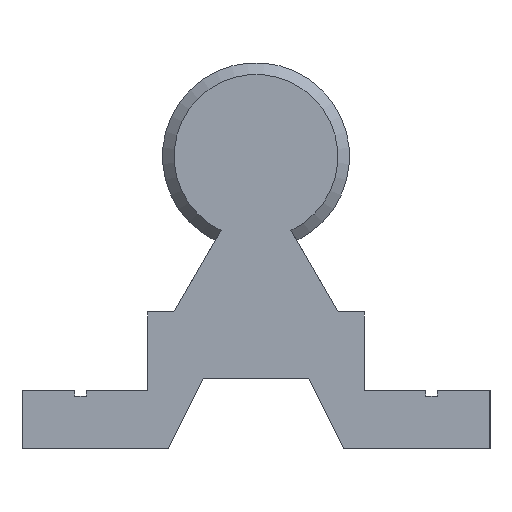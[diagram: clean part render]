
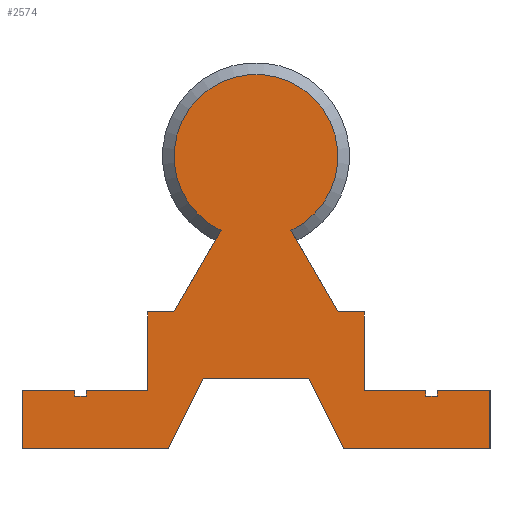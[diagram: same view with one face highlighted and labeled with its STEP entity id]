
A CAD part, left-side view. The second image highlights one B-rep face of the part: STEP entity #2574.
In plain terms, the highlighted planar face has unit normal (-1, 0, 0).
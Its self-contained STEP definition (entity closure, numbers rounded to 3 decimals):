
#56=LINE('',#3805,#274);
#57=LINE('',#3807,#275);
#58=LINE('',#3809,#276);
#59=LINE('',#3811,#277);
#60=LINE('',#3813,#278);
#61=LINE('',#3815,#279);
#62=LINE('',#3817,#280);
#63=LINE('',#3819,#281);
#64=LINE('',#3821,#282);
#65=LINE('',#3823,#283);
#66=LINE('',#3825,#284);
#67=LINE('',#3827,#285);
#68=LINE('',#3829,#286);
#69=LINE('',#3831,#287);
#70=LINE('',#3833,#288);
#71=LINE('',#3835,#289);
#72=LINE('',#3837,#290);
#73=LINE('',#3839,#291);
#74=LINE('',#3841,#292);
#75=LINE('',#3843,#293);
#76=LINE('',#3845,#294);
#77=LINE('',#3847,#295);
#78=LINE('',#3848,#296);
#274=VECTOR('',#3011,10.);
#275=VECTOR('',#3012,10.);
#276=VECTOR('',#3013,10.);
#277=VECTOR('',#3014,10.);
#278=VECTOR('',#3015,10.);
#279=VECTOR('',#3016,10.);
#280=VECTOR('',#3017,10.);
#281=VECTOR('',#3018,10.);
#282=VECTOR('',#3019,10.);
#283=VECTOR('',#3020,10.);
#284=VECTOR('',#3021,10.);
#285=VECTOR('',#3022,10.);
#286=VECTOR('',#3023,10.);
#287=VECTOR('',#3024,10.);
#288=VECTOR('',#3025,10.);
#289=VECTOR('',#3026,10.);
#290=VECTOR('',#3027,10.);
#291=VECTOR('',#3028,10.);
#292=VECTOR('',#3029,10.);
#293=VECTOR('',#3030,10.);
#294=VECTOR('',#3031,10.);
#295=VECTOR('',#3032,10.);
#296=VECTOR('',#3033,10.);
#492=PLANE('',#2720);
#578=FACE_OUTER_BOUND('',#702,.T.);
#702=EDGE_LOOP('',(#1731,#1732,#1733,#1734,#1735,#1736,#1737,#1738,#1739,
#1740,#1741,#1742,#1743,#1744,#1745,#1746,#1747,#1748,#1749,#1750,#1751,
#1752,#1753,#1754));
#845=CIRCLE('',#2718,7.);
#1042=VERTEX_POINT('',#3792);
#1043=VERTEX_POINT('',#3796);
#1045=VERTEX_POINT('',#3804);
#1046=VERTEX_POINT('',#3806);
#1047=VERTEX_POINT('',#3808);
#1048=VERTEX_POINT('',#3810);
#1049=VERTEX_POINT('',#3812);
#1050=VERTEX_POINT('',#3814);
#1051=VERTEX_POINT('',#3816);
#1052=VERTEX_POINT('',#3818);
#1053=VERTEX_POINT('',#3820);
#1054=VERTEX_POINT('',#3822);
#1055=VERTEX_POINT('',#3824);
#1056=VERTEX_POINT('',#3826);
#1057=VERTEX_POINT('',#3828);
#1058=VERTEX_POINT('',#3830);
#1059=VERTEX_POINT('',#3832);
#1060=VERTEX_POINT('',#3834);
#1061=VERTEX_POINT('',#3836);
#1062=VERTEX_POINT('',#3838);
#1063=VERTEX_POINT('',#3840);
#1064=VERTEX_POINT('',#3842);
#1065=VERTEX_POINT('',#3844);
#1066=VERTEX_POINT('',#3846);
#1314=EDGE_CURVE('',#1042,#1043,#845,.T.);
#1317=EDGE_CURVE('',#1043,#1045,#56,.T.);
#1318=EDGE_CURVE('',#1046,#1042,#57,.T.);
#1319=EDGE_CURVE('',#1047,#1046,#58,.T.);
#1320=EDGE_CURVE('',#1048,#1047,#59,.T.);
#1321=EDGE_CURVE('',#1049,#1048,#60,.T.);
#1322=EDGE_CURVE('',#1050,#1049,#61,.T.);
#1323=EDGE_CURVE('',#1051,#1050,#62,.T.);
#1324=EDGE_CURVE('',#1052,#1051,#63,.T.);
#1325=EDGE_CURVE('',#1053,#1052,#64,.T.);
#1326=EDGE_CURVE('',#1054,#1053,#65,.T.);
#1327=EDGE_CURVE('',#1055,#1054,#66,.T.);
#1328=EDGE_CURVE('',#1056,#1055,#67,.T.);
#1329=EDGE_CURVE('',#1057,#1056,#68,.T.);
#1330=EDGE_CURVE('',#1058,#1057,#69,.T.);
#1331=EDGE_CURVE('',#1059,#1058,#70,.T.);
#1332=EDGE_CURVE('',#1060,#1059,#71,.T.);
#1333=EDGE_CURVE('',#1061,#1060,#72,.T.);
#1334=EDGE_CURVE('',#1062,#1061,#73,.T.);
#1335=EDGE_CURVE('',#1063,#1062,#74,.T.);
#1336=EDGE_CURVE('',#1064,#1063,#75,.T.);
#1337=EDGE_CURVE('',#1065,#1064,#76,.T.);
#1338=EDGE_CURVE('',#1066,#1065,#77,.T.);
#1339=EDGE_CURVE('',#1045,#1066,#78,.T.);
#1731=ORIENTED_EDGE('',*,*,#1317,.F.);
#1732=ORIENTED_EDGE('',*,*,#1314,.F.);
#1733=ORIENTED_EDGE('',*,*,#1318,.F.);
#1734=ORIENTED_EDGE('',*,*,#1319,.F.);
#1735=ORIENTED_EDGE('',*,*,#1320,.F.);
#1736=ORIENTED_EDGE('',*,*,#1321,.F.);
#1737=ORIENTED_EDGE('',*,*,#1322,.F.);
#1738=ORIENTED_EDGE('',*,*,#1323,.F.);
#1739=ORIENTED_EDGE('',*,*,#1324,.F.);
#1740=ORIENTED_EDGE('',*,*,#1325,.F.);
#1741=ORIENTED_EDGE('',*,*,#1326,.F.);
#1742=ORIENTED_EDGE('',*,*,#1327,.F.);
#1743=ORIENTED_EDGE('',*,*,#1328,.F.);
#1744=ORIENTED_EDGE('',*,*,#1329,.F.);
#1745=ORIENTED_EDGE('',*,*,#1330,.F.);
#1746=ORIENTED_EDGE('',*,*,#1331,.F.);
#1747=ORIENTED_EDGE('',*,*,#1332,.F.);
#1748=ORIENTED_EDGE('',*,*,#1333,.F.);
#1749=ORIENTED_EDGE('',*,*,#1334,.F.);
#1750=ORIENTED_EDGE('',*,*,#1335,.F.);
#1751=ORIENTED_EDGE('',*,*,#1336,.F.);
#1752=ORIENTED_EDGE('',*,*,#1337,.F.);
#1753=ORIENTED_EDGE('',*,*,#1338,.F.);
#1754=ORIENTED_EDGE('',*,*,#1339,.F.);
#2574=ADVANCED_FACE('',(#578),#492,.F.);
#2718=AXIS2_PLACEMENT_3D('',#3797,#3005,#3006);
#2720=AXIS2_PLACEMENT_3D('',#3803,#3009,#3010);
#3005=DIRECTION('center_axis',(1.,0.,0.));
#3006=DIRECTION('ref_axis',(0.,1.,0.));
#3009=DIRECTION('center_axis',(1.,0.,0.));
#3010=DIRECTION('ref_axis',(0.,0.,-1.));
#3011=DIRECTION('',(0.,-0.5,-0.866));
#3012=DIRECTION('',(0.,-0.5,0.866));
#3013=DIRECTION('',(0.,-1.,0.));
#3014=DIRECTION('',(0.,0.,1.));
#3015=DIRECTION('',(0.,-1.,0.));
#3016=DIRECTION('',(0.,0.,1.));
#3017=DIRECTION('',(0.,-1.,0.));
#3018=DIRECTION('',(0.,0.,-1.));
#3019=DIRECTION('',(0.,-1.,0.));
#3020=DIRECTION('',(0.,0.,1.));
#3021=DIRECTION('',(0.,1.,0.));
#3022=DIRECTION('',(0.,0.447,-0.894));
#3023=DIRECTION('',(0.,1.,0.));
#3024=DIRECTION('',(0.,0.447,0.894));
#3025=DIRECTION('',(0.,1.,0.));
#3026=DIRECTION('',(0.,0.,-1.));
#3027=DIRECTION('',(0.,-1.,0.));
#3028=DIRECTION('',(0.,0.,1.));
#3029=DIRECTION('',(0.,-1.,0.));
#3030=DIRECTION('',(0.,0.,-1.));
#3031=DIRECTION('',(0.,-1.,0.));
#3032=DIRECTION('',(0.,0.,-1.));
#3033=DIRECTION('',(0.,-1.,0.));
#3792=CARTESIAN_POINT('',(0.,2.986,18.669));
#3796=CARTESIAN_POINT('',(0.,-2.986,18.669));
#3797=CARTESIAN_POINT('Origin',(0.,0.,25.));
#3803=CARTESIAN_POINT('Origin',(0.,0.,25.));
#3804=CARTESIAN_POINT('',(0.,-7.009,11.7));
#3805=CARTESIAN_POINT('',(0.,-1.492,21.255));
#3806=CARTESIAN_POINT('',(0.,7.009,11.7));
#3807=CARTESIAN_POINT('',(0.,3.253,18.205));
#3808=CARTESIAN_POINT('',(0.,9.25,11.7));
#3809=CARTESIAN_POINT('',(0.,9.25,11.7));
#3810=CARTESIAN_POINT('',(0.,9.25,5.));
#3811=CARTESIAN_POINT('',(0.,9.25,5.));
#3812=CARTESIAN_POINT('',(0.,14.5,5.));
#3813=CARTESIAN_POINT('',(0.,14.5,5.));
#3814=CARTESIAN_POINT('',(0.,14.5,4.5));
#3815=CARTESIAN_POINT('',(0.,14.5,4.5));
#3816=CARTESIAN_POINT('',(0.,15.5,4.5));
#3817=CARTESIAN_POINT('',(0.,15.5,4.5));
#3818=CARTESIAN_POINT('',(0.,15.5,5.));
#3819=CARTESIAN_POINT('',(0.,15.5,5.));
#3820=CARTESIAN_POINT('',(0.,20.,5.));
#3821=CARTESIAN_POINT('',(0.,20.,5.));
#3822=CARTESIAN_POINT('',(0.,20.,0.));
#3823=CARTESIAN_POINT('',(0.,20.,0.));
#3824=CARTESIAN_POINT('',(0.,7.5,0.));
#3825=CARTESIAN_POINT('',(0.,7.5,0.));
#3826=CARTESIAN_POINT('',(0.,4.5,6.));
#3827=CARTESIAN_POINT('',(0.,4.5,6.));
#3828=CARTESIAN_POINT('',(0.,-4.5,6.));
#3829=CARTESIAN_POINT('',(0.,-4.5,6.));
#3830=CARTESIAN_POINT('',(0.,-7.5,0.));
#3831=CARTESIAN_POINT('',(0.,-7.5,0.));
#3832=CARTESIAN_POINT('',(0.,-20.,0.));
#3833=CARTESIAN_POINT('',(0.,-20.,0.));
#3834=CARTESIAN_POINT('',(0.,-20.,5.));
#3835=CARTESIAN_POINT('',(0.,-20.,5.));
#3836=CARTESIAN_POINT('',(0.,-15.5,5.));
#3837=CARTESIAN_POINT('',(0.,-15.5,5.));
#3838=CARTESIAN_POINT('',(0.,-15.5,4.5));
#3839=CARTESIAN_POINT('',(0.,-15.5,4.5));
#3840=CARTESIAN_POINT('',(0.,-14.5,4.5));
#3841=CARTESIAN_POINT('',(0.,-14.5,4.5));
#3842=CARTESIAN_POINT('',(0.,-14.5,5.));
#3843=CARTESIAN_POINT('',(0.,-14.5,5.));
#3844=CARTESIAN_POINT('',(0.,-9.25,5.));
#3845=CARTESIAN_POINT('',(0.,-9.25,5.));
#3846=CARTESIAN_POINT('',(0.,-9.25,11.7));
#3847=CARTESIAN_POINT('',(0.,-9.25,11.7));
#3848=CARTESIAN_POINT('',(0.,-7.009,11.7));
